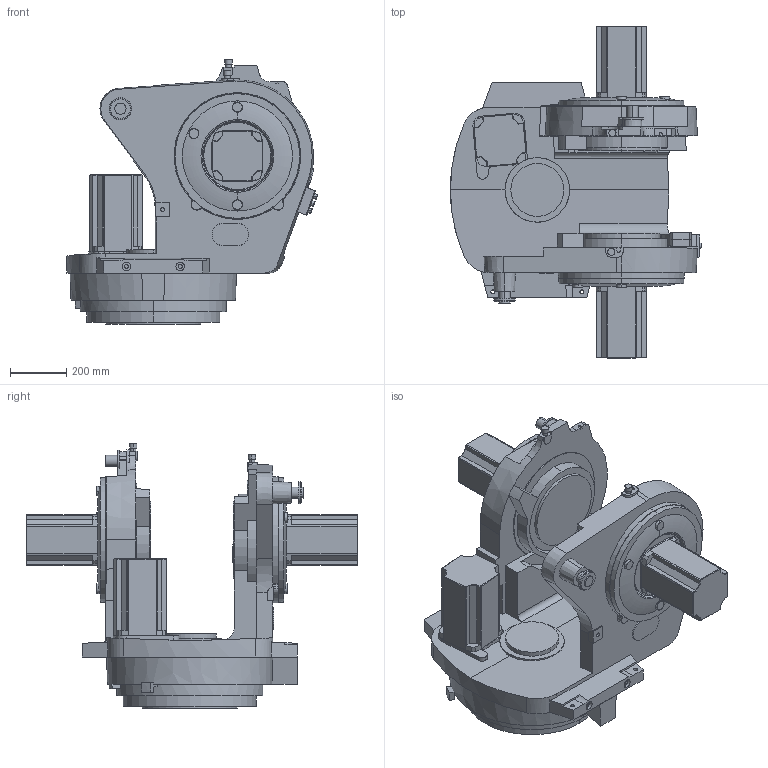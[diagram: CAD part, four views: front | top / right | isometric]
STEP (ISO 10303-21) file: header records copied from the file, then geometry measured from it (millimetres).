
FILE_DESCRIPTION (( 'STEP AP214' ), '1' );
FILE_NAME ('IRB760_445-318_LINK1_CAD_rev00.STEP', '2020-01-31T12:25:30', ( '' ), ( '' ), 'SwSTEP 2.0', 'SolidWorks 2018', '' );
FILE_SCHEMA (( 'AUTOMOTIVE_DESIGN' ));
Length unit declared in the file: millimetre
Products named in the file (2): IRB760_445-318_LINK1_CAD_rev00
Bounding box: 896.03 x 1184 x 945 mm (x, y, z)
Volume: 185324716.1 mm3; surface area: 4074235.9 mm2
Topology: 2 solids, 2 shells, 645 faces, 1650 edges, 1060 vertices
Faces by surface type: plane 411, cylinder 126, cone 78, bspline 17, torus 13
Entity records: 30534 total; most frequent: CARTESIAN_POINT 7794, ORIENTED_EDGE 3300, DIRECTION 3152, EDGE_CURVE 1650, LINE 1086, VECTOR 1086, VERTEX_POINT 1060, AXIS2_PLACEMENT_3D 1033
